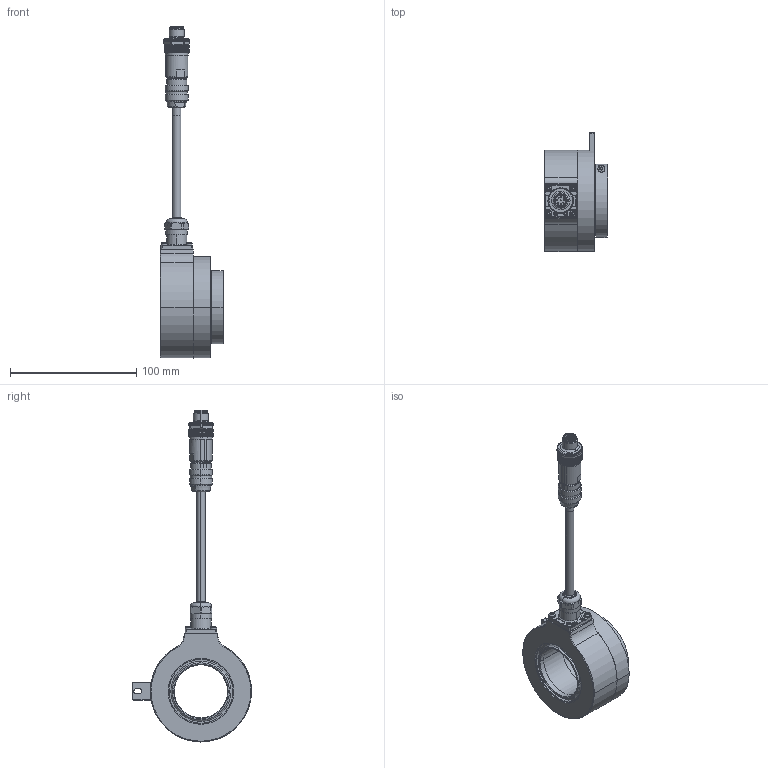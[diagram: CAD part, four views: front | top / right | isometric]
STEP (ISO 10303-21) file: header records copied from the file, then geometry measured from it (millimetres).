
FILE_DESCRIPTION (( 'STEP AP203' ), '1' );
FILE_NAME ('K80I.OXX.XXXXX.XH11842.6XR12.XXXX.step', '2025-12-09T07:41:35', ( '' ), ( '' ), 'SwSTEP 2.0', 'SolidWorks 2021', '' );
FILE_SCHEMA (( 'CONFIG_CONTROL_DESIGN' ));
Length unit declared in the file: millimetre
Products named in the file (1): K80I.OXX.XXXXX.XH11842.6XR12.XXXX
Bounding box: 50.2 x 94.28 x 262.56 mm (x, y, z)
Volume: 186132.8 mm3; surface area: 69740.2 mm2
Topology: 18 solids, 18 shells, 1571 faces, 3892 edges, 2380 vertices
Faces by surface type: plane 599, cylinder 540, cone 313, bspline 54, torus 33, sphere 32
Entity records: 49447 total; most frequent: CARTESIAN_POINT 13216, ORIENTED_EDGE 7704, DIRECTION 7466, EDGE_CURVE 3852, AXIS2_PLACEMENT_3D 2938, VERTEX_POINT 2364, EDGE_LOOP 1646, LINE 1590
